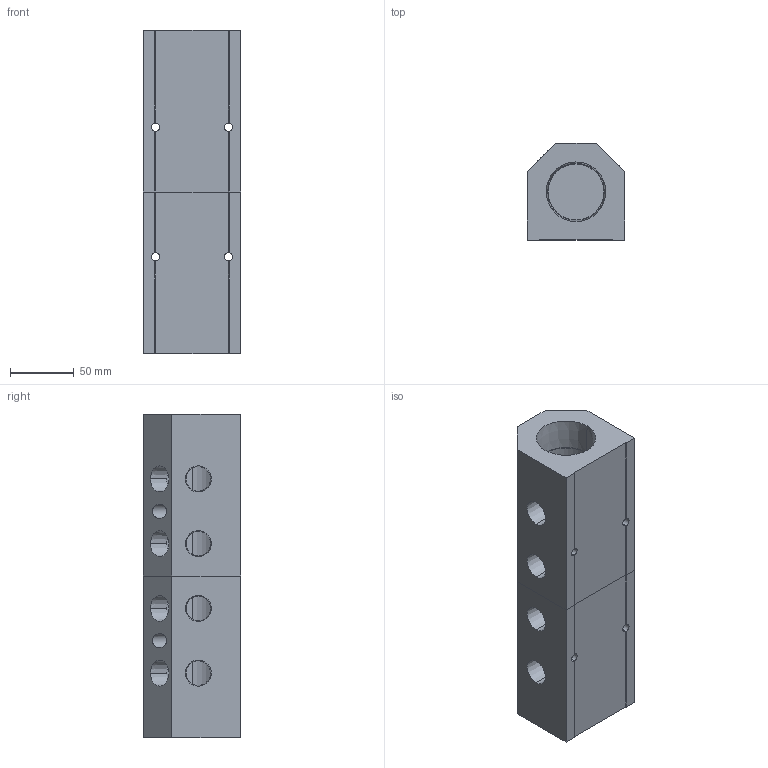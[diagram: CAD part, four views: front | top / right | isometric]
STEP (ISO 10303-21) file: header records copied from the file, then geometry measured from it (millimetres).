
FILE_DESCRIPTION (( 'STEP AP214' ), '1' );
FILE_NAME ('ALM4ABC-N8N24-254RB.step', '2022-02-07T09:39:30', ( '' ), ( '' ), 'SwSTEP 2.0', 'SolidWorks 2020', '' );
FILE_SCHEMA (( 'AUTOMOTIVE_DESIGN' ));
Length unit declared in the file: millimetre
Products named in the file (1): ALM4ABC-N8N24-254RB
Bounding box: 76.2 x 76.2 x 254 mm (x, y, z)
Volume: 878732.7 mm3; surface area: 137901.4 mm2
Topology: 2 solids, 2 shells, 383 faces, 1042 edges, 692 vertices
Faces by surface type: plane 262, bspline 73, cone 28, cylinder 20
Entity records: 21264 total; most frequent: CARTESIAN_POINT 8495, ORIENTED_EDGE 2084, DIRECTION 1510, EDGE_CURVE 1042, VECTOR 760, LINE 760, VERTEX_POINT 692, EDGE_LOOP 444
